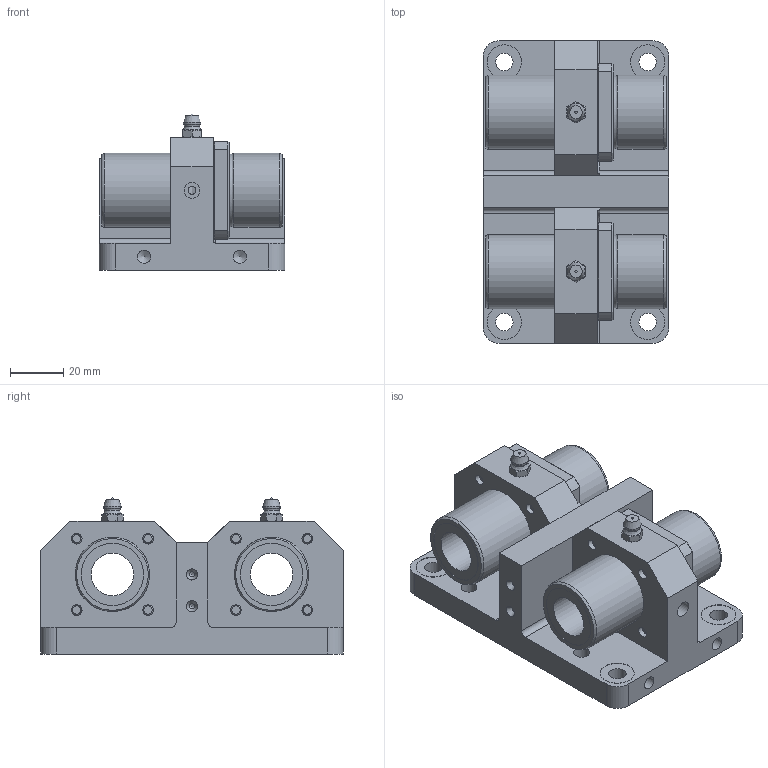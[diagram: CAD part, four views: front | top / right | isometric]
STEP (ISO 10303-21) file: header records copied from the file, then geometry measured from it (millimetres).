
FILE_DESCRIPTION((''),'2;1');
FILE_NAME('D:\製品 (図面)\カタログ用3D\リニアベアリング関連\STEP形式\LUFD\LUFD16.stp','2010-07-29T14:33:35',('Tsuchiya'),(''),'Autodesk Inventor 10','Autodesk Inventor 10','');
FILE_SCHEMA(('AUTOMOTIVE_DESIGN { 1 0 10303 214 1 1 1 1 }'));
Length unit declared in the file: millimetre
Products named in the file (4): LUFD16; LUFD161; LUFD162; LUFD163
Assembly tree (3 placements, depth 2):
  LUFD16
    LUFD161
    LUFD162
    LUFD163
Bounding box: 70 x 114 x 58.8 mm (x, y, z)
Volume: 209660.1 mm3; surface area: 64833 mm2
Topology: 13 solids, 13 shells, 386 faces, 866 edges, 548 vertices
Faces by surface type: plane 160, bspline 77, cylinder 73, cone 60, torus 12, sphere 4
Full cylindrical faces by diameter (mm): 3 x3, 4 x12, 6 x6, 6.6 x2, 7 x8, 13 x2, 16 x2, 23.5 x4, 28 x7
Entity records: 11872 total; most frequent: CARTESIAN_POINT 4374, DIRECTION 1434, ORIENTED_EDGE 1352, EDGE_CURVE 676, EDGE_LOOP 640, AXIS2_PLACEMENT_3D 594, VERTEX_POINT 506, FACE_OUTER_BOUND 386
